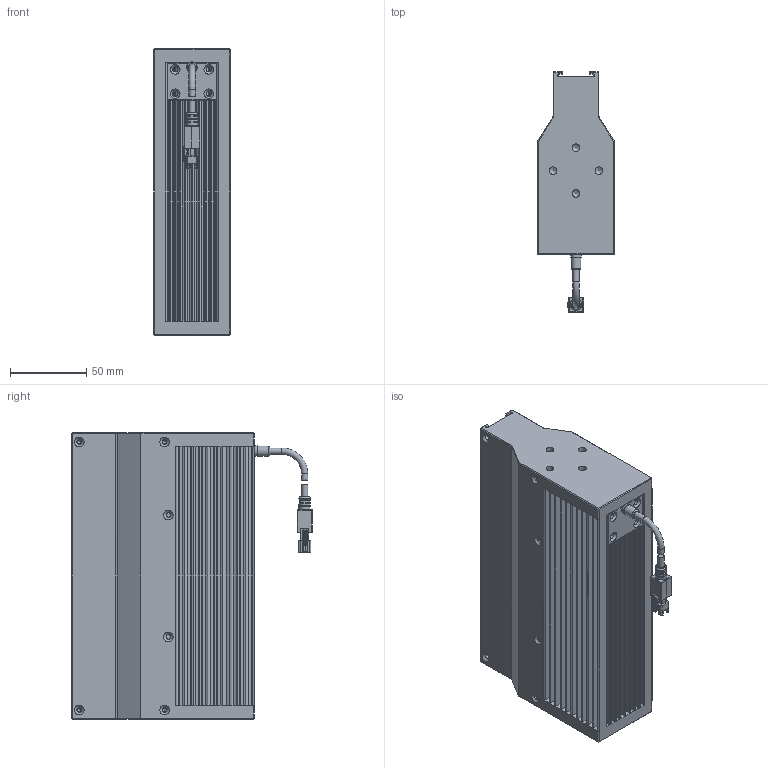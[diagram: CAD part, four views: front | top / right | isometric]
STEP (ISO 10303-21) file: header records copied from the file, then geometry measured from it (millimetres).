
FILE_DESCRIPTION (( 'STEP AP203' ), '1' );
FILE_NAME ('OPT-LSNL188-W-V1.0尨砩芞.STEP', '2025-02-17T09:02:10', ( '' ), ( '' ), 'SwSTEP 2.0', 'SolidWorks 2016', '' );
FILE_SCHEMA (( 'CONFIG_CONTROL_DESIGN' ));
Length unit declared in the file: millimetre
Products named in the file (1): OPT-LSNL188-W-V1.0尨砩芞
Bounding box: 50.02 x 158 x 188 mm (x, y, z)
Volume: 694113.8 mm3; surface area: 228557.8 mm2
Topology: 7 solids, 12 shells, 952 faces, 2638 edges, 1699 vertices
Faces by surface type: plane 570, cylinder 313, cone 44, bspline 17, torus 8
Full cylindrical faces by diameter (mm): 1.1 x2, 1.4 x2, 2.5 x10, 3 x8, 3.4 x16, 4.1 x4, 5 x8, 5.8 x1, 6.5 x1, 7 x1, 7.5 x1
Entity records: 32630 total; most frequent: CARTESIAN_POINT 9346, ORIENTED_EDGE 4950, DIRECTION 4524, EDGE_CURVE 2475, VERTEX_POINT 1642, VECTOR 1596, LINE 1596, AXIS2_PLACEMENT_3D 1464
